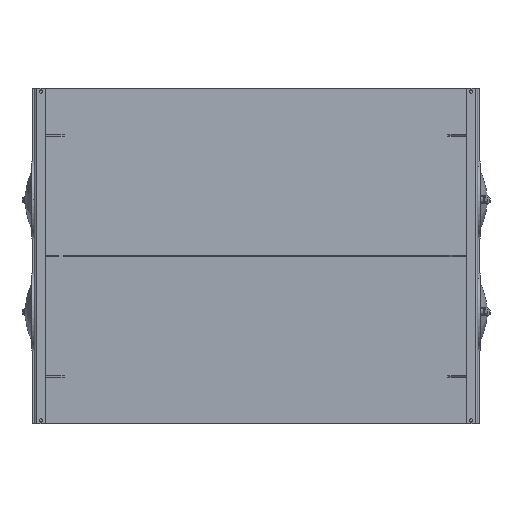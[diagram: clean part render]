
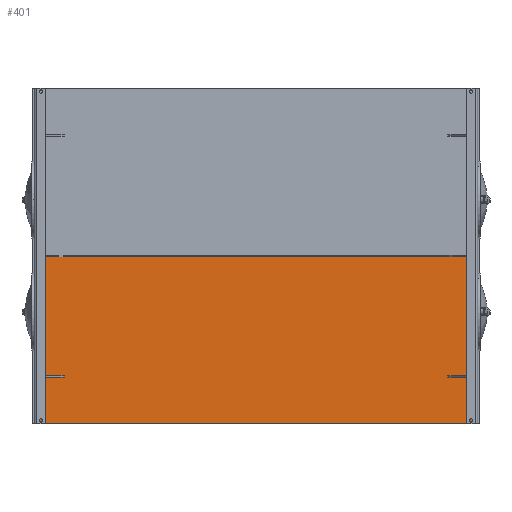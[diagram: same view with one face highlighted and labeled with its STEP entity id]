
A CAD part, front view. The second image highlights one B-rep face of the part: STEP entity #401.
In plain terms, the highlighted planar face has unit normal (0, -1, -0.014) as drawn and (-0.014, -1, 0) by its records, which use the part's own axes.
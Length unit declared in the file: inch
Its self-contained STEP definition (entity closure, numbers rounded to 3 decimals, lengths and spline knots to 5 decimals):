
#77 = DIRECTION ( 'NONE',  ( 0., 0., -1. ) ) ;
#401 = ADVANCED_FACE ( 'NONE', ( #2982 ), #1111, .T. ) ;
#487 = VECTOR ( 'NONE', #2259, 39.37008 ) ;
#723 = CARTESIAN_POINT ( 'NONE',  ( -0.02877, -0.1873, 47.125 ) ) ;
#960 = CARTESIAN_POINT ( 'NONE',  ( -0.02877, -0.1873, 47.125 ) ) ;
#1027 = LINE ( 'NONE', #3509, #6789 ) ;
#1111 = PLANE ( 'NONE',  #5149 ) ;
#1167 = ORIENTED_EDGE ( 'NONE', *, *, #6131, .F. ) ;
#1438 = EDGE_CURVE ( 'NONE', #3011, #5750, #5358, .T. ) ;
#1697 = EDGE_LOOP ( 'NONE', ( #1167, #3451, #4330, #4669 ) ) ;
#1872 = EDGE_CURVE ( 'NONE', #3011, #5698, #6534, .T. ) ;
#2194 = EDGE_CURVE ( 'NONE', #5698, #2466, #5670, .T. ) ;
#2259 = DIRECTION ( 'NONE',  ( -1., 0.014, 0. ) ) ;
#2466 = VERTEX_POINT ( 'NONE', #4961 ) ;
#2499 = VECTOR ( 'NONE', #77, 39.37008 ) ;
#2982 = FACE_OUTER_BOUND ( 'NONE', #1697, .T. ) ;
#3011 = VERTEX_POINT ( 'NONE', #5028 ) ;
#3451 = ORIENTED_EDGE ( 'NONE', *, *, #1438, .F. ) ;
#3509 = CARTESIAN_POINT ( 'NONE',  ( -0.02877, -0.1873, -47.125 ) ) ;
#3819 = DIRECTION ( 'NONE',  ( 1., -0.014, 0. ) ) ;
#3833 = CARTESIAN_POINT ( 'NONE',  ( -35.94877, 0.31252, 47.125 ) ) ;
#3967 = CARTESIAN_POINT ( 'NONE',  ( -0.02877, -0.1873, -47.125 ) ) ;
#4330 = ORIENTED_EDGE ( 'NONE', *, *, #1872, .T. ) ;
#4669 = ORIENTED_EDGE ( 'NONE', *, *, #2194, .T. ) ;
#4753 = CARTESIAN_POINT ( 'NONE',  ( -0.02877, -0.1873, 47.125 ) ) ;
#4961 = CARTESIAN_POINT ( 'NONE',  ( -35.94877, 0.31252, -47.125 ) ) ;
#5028 = CARTESIAN_POINT ( 'NONE',  ( -0.02877, -0.1873, 47.125 ) ) ;
#5149 = AXIS2_PLACEMENT_3D ( 'NONE', #723, #6910, #3819 ) ;
#5358 = LINE ( 'NONE', #4753, #7197 ) ;
#5670 = LINE ( 'NONE', #3833, #2499 ) ;
#5698 = VERTEX_POINT ( 'NONE', #7635 ) ;
#5750 = VERTEX_POINT ( 'NONE', #3967 ) ;
#5996 = DIRECTION ( 'NONE',  ( -1., 0.014, 0. ) ) ;
#6131 = EDGE_CURVE ( 'NONE', #5750, #2466, #1027, .T. ) ;
#6534 = LINE ( 'NONE', #960, #487 ) ;
#6789 = VECTOR ( 'NONE', #5996, 39.37008 ) ;
#6910 = DIRECTION ( 'NONE',  ( -0.014, -1., 0. ) ) ;
#7197 = VECTOR ( 'NONE', #7237, 39.37008 ) ;
#7237 = DIRECTION ( 'NONE',  ( 0., 0., -1. ) ) ;
#7635 = CARTESIAN_POINT ( 'NONE',  ( -35.94877, 0.31252, 47.125 ) ) ;
